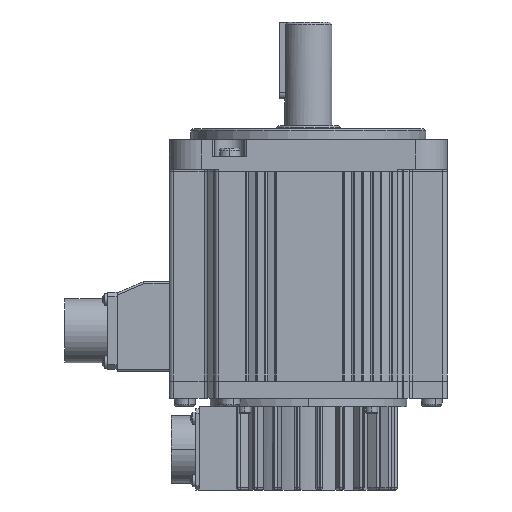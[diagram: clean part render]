
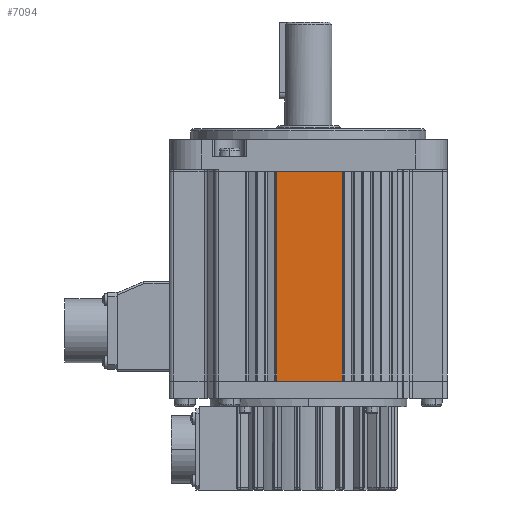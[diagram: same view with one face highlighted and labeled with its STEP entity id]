
A CAD part, left-side view. The second image highlights one B-rep face of the part: STEP entity #7094.
In plain terms, the highlighted planar face has unit normal (-1, 0, 0).
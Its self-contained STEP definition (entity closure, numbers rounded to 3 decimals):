
#297 = EDGE_LOOP ( 'NONE', ( #13751, #13752, #13753, #13754 ) ) ;
#4861 = DIRECTION ( 'NONE',  ( 0., 1., 0. ) ) ;
#4862 = CARTESIAN_POINT ( 'NONE',  ( -65., -65., -98. ) ) ;
#4932 = EDGE_CURVE ( 'NONE', #27713, #27707, #22539, .T. ) ;
#5104 = EDGE_CURVE ( 'NONE', #11322, #16984, #22770, .T. ) ;
#5271 = EDGE_CURVE ( 'NONE', #27713, #11322, #25541, .T. ) ;
#5272 = EDGE_CURVE ( 'NONE', #16984, #27707, #25543, .T. ) ;
#5784 = CARTESIAN_POINT ( 'NONE',  ( -65., 14.9, 0. ) ) ;
#7094 = ADVANCED_FACE ( 'NONE', ( #26457 ), #28075, .F. ) ;
#10117 = CARTESIAN_POINT ( 'NONE',  ( -65., -15.9, -98. ) ) ;
#10128 = CARTESIAN_POINT ( 'NONE',  ( -65., 14.9, -98. ) ) ;
#11322 = VERTEX_POINT ( 'NONE', #35503 ) ;
#13751 = ORIENTED_EDGE ( 'NONE', *, *, #4932, .F. ) ;
#13752 = ORIENTED_EDGE ( 'NONE', *, *, #5271, .T. ) ;
#13753 = ORIENTED_EDGE ( 'NONE', *, *, #5104, .T. ) ;
#13754 = ORIENTED_EDGE ( 'NONE', *, *, #5272, .T. ) ;
#16984 = VERTEX_POINT ( 'NONE', #5784 ) ;
#22539 = LINE ( 'NONE', #4862, #22541 ) ;
#22541 = VECTOR ( 'NONE', #4861, 1000. ) ;
#22770 = LINE ( 'NONE', #25017, #22773 ) ;
#22773 = VECTOR ( 'NONE', #24988, 1000. ) ;
#24988 = DIRECTION ( 'NONE',  ( 0., 1., 0. ) ) ;
#25017 = CARTESIAN_POINT ( 'NONE',  ( -65., -65., 0. ) ) ;
#25541 = LINE ( 'NONE', #26626, #25544 ) ;
#25543 = LINE ( 'NONE', #26628, #25546 ) ;
#25544 = VECTOR ( 'NONE', #26627, 1000. ) ;
#25546 = VECTOR ( 'NONE', #26629, 1000. ) ;
#26457 = FACE_OUTER_BOUND ( 'NONE', #297, .T. ) ;
#26626 = CARTESIAN_POINT ( 'NONE',  ( -65., -15.9, 0. ) ) ;
#26627 = DIRECTION ( 'NONE',  ( 0., 0., 1. ) ) ;
#26628 = CARTESIAN_POINT ( 'NONE',  ( -65., 14.9, -98. ) ) ;
#26629 = DIRECTION ( 'NONE',  ( 0., 0., -1. ) ) ;
#27707 = VERTEX_POINT ( 'NONE', #10128 ) ;
#27713 = VERTEX_POINT ( 'NONE', #10117 ) ;
#28069 = CARTESIAN_POINT ( 'NONE',  ( -65., -65., -98. ) ) ;
#28075 = PLANE ( 'NONE',  #28649 ) ;
#28077 = DIRECTION ( 'NONE',  ( 1., 0., 0. ) ) ;
#28078 = DIRECTION ( 'NONE',  ( 0., 1., 0. ) ) ;
#28649 = AXIS2_PLACEMENT_3D ( 'NONE', #28069, #28077, #28078 ) ;
#35503 = CARTESIAN_POINT ( 'NONE',  ( -65., -15.9, 0. ) ) ;
